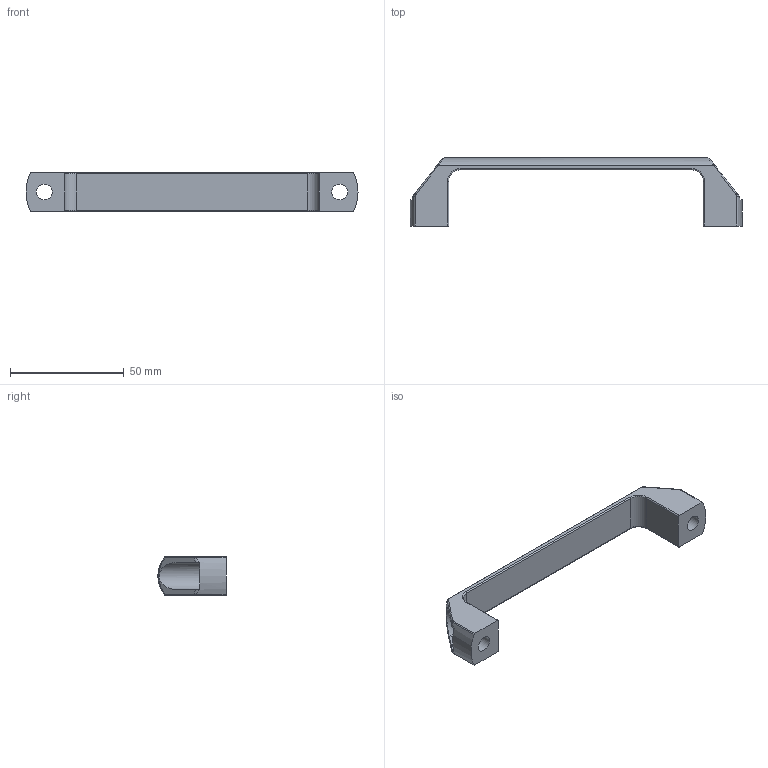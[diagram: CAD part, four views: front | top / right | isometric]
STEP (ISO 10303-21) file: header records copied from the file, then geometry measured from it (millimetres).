
FILE_DESCRIPTION(/* description */ (''),/* implementation_level */ '2;1');
FILE_NAME(/* name */ '\\NAS\db20\A-AC130\DR_A-AC130.stp',/* time_stamp */ '2017-07-05T11:45:21+09:00',/* author */ ('user'),/* organization */ (''),/* preprocessor_version */ 'ST-DEVELOPER v15.6',/* originating_system */ 'Autodesk Inventor 2015',/* authorisation */ '');
FILE_SCHEMA (('AUTOMOTIVE_DESIGN { 1 0 10303 214 3 1 1 }'));
Length unit declared in the file: millimetre
Products named in the file (1): DR_A-AC130
Bounding box: 146 x 29.99 x 17 mm (x, y, z)
Volume: 17190.8 mm3; surface area: 9202 mm2
Topology: 1 solids, 1 shells, 60 faces, 152 edges, 92 vertices
Faces by surface type: cylinder 25, plane 15, bspline 14, torus 4, cone 2
Full cylindrical faces by diameter (mm): 7 x2
Entity records: 2068 total; most frequent: CARTESIAN_POINT 669, ORIENTED_EDGE 288, DIRECTION 284, EDGE_CURVE 144, AXIS2_PLACEMENT_3D 113, VERTEX_POINT 88, EDGE_LOOP 66, FACE_OUTER_BOUND 60
